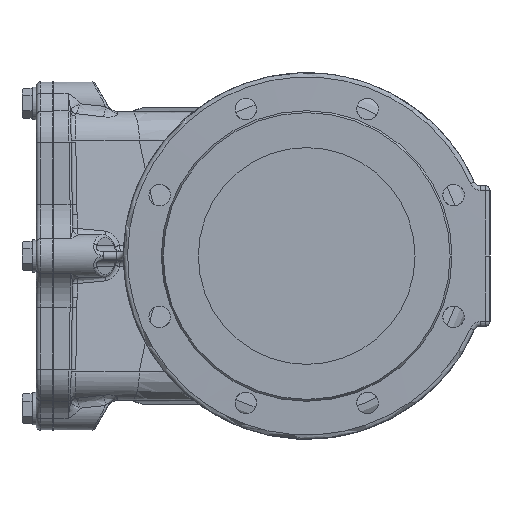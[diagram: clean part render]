
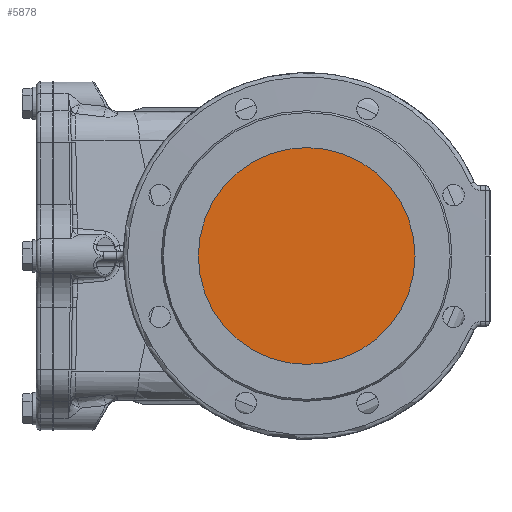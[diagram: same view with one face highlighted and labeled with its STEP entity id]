
A CAD part, left-side view. The second image highlights one B-rep face of the part: STEP entity #5878.
In plain terms, the highlighted planar face has unit normal (-1, 0, 0).
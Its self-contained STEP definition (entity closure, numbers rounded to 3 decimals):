
#5878=ADVANCED_FACE('',(#16596),#16598,.T.);
#16596=FACE_BOUND('',#16597,.T.);
#16597=EDGE_LOOP('',(#20901));
#16598=PLANE('',#16599);
#16599=AXIS2_PLACEMENT_3D('',#16600,#16601,#16602);
#16600=CARTESIAN_POINT('',(10.,0.,0.));
#16601=DIRECTION('',(-1.,0.,0.));
#16602=DIRECTION('',(0.,0.,1.));
#20901=ORIENTED_EDGE('',*,*,#23505,.T.);
#23505=EDGE_CURVE('',#26445,#26445,#26446,.T.);
#26445=VERTEX_POINT('',#76618);
#26446=CIRCLE('',#76619,100.5);
#76618=CARTESIAN_POINT('',(10.,100.5,0.));
#76619=AXIS2_PLACEMENT_3D('',#76620,#76621,#76622);
#76620=CARTESIAN_POINT('',(10.,0.,0.));
#76621=DIRECTION('',(-1.,0.,0.));
#76622=DIRECTION('',(0.,0.,-1.));
